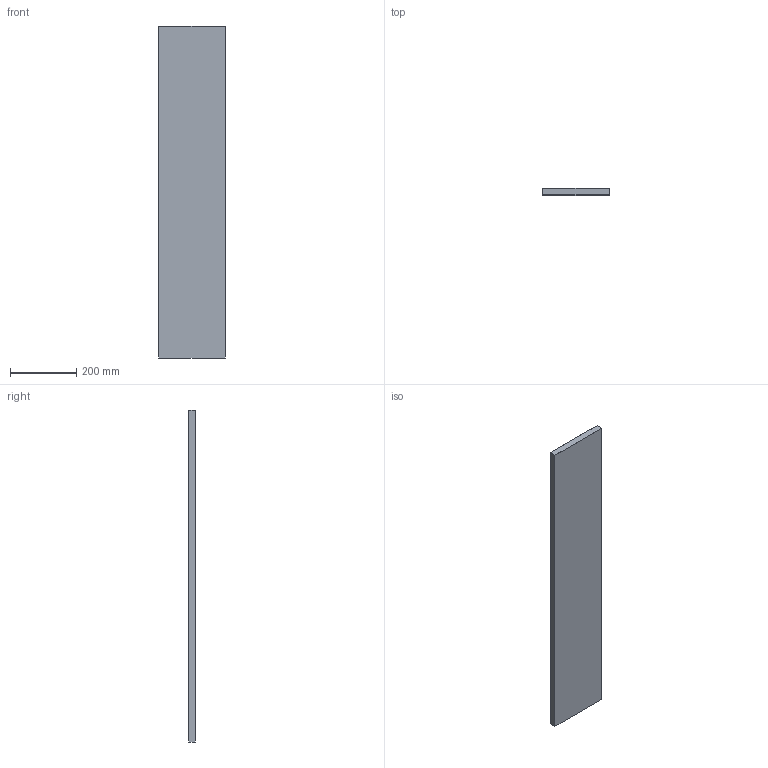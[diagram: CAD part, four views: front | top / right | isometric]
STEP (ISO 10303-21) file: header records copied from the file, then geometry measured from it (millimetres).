
FILE_DESCRIPTION (( 'STEP AP214' ), '1' );
FILE_NAME ('PS-200X20.STEP', '2025-02-25T12:49:13', ( 'Àëåêñåé' ), ( '' ), 'SwSTEP 2.0', 'SolidWorks 2022', '' );
FILE_SCHEMA (( 'AUTOMOTIVE_DESIGN' ));
Length unit declared in the file: millimetre
Products named in the file (1): PS-200X20
Bounding box: 200 x 20 x 1000 mm (x, y, z)
Volume: 3999961.9 mm3; surface area: 447618.8 mm2
Topology: 1 solids, 1 shells, 18 faces, 40 edges, 20 vertices
Faces by surface type: cylinder 8, plane 6, sphere 4
Entity records: 681 total; most frequent: DIRECTION 90, CARTESIAN_POINT 75, ORIENTED_EDGE 72, EDGE_CURVE 36, AXIS2_PLACEMENT_3D 35, UNCERTAINTY_MEASURE_WITH_UNIT 20, VERTEX_POINT 20, VECTOR 20
